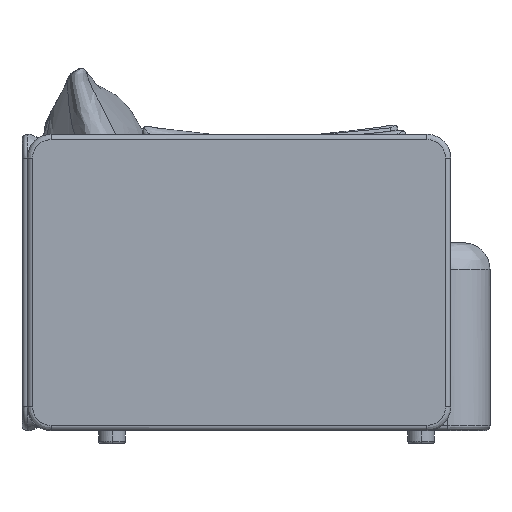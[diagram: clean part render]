
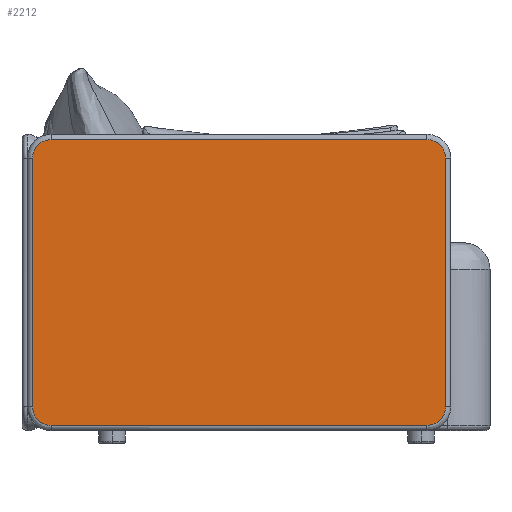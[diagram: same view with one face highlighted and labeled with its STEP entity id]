
A CAD part, left-side view. The second image highlights one B-rep face of the part: STEP entity #2212.
In plain terms, the highlighted planar face has unit normal (-1, 0, 0).
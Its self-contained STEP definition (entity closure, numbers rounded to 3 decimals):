
#926=(
BOUNDED_CURVE()
B_SPLINE_CURVE(2,(#48172,#48173,#48174),.UNSPECIFIED.,.F.,.F.)
B_SPLINE_CURVE_WITH_KNOTS((3,3),(0.,54.978),.UNSPECIFIED.)
CURVE()
GEOMETRIC_REPRESENTATION_ITEM()
RATIONAL_B_SPLINE_CURVE((1.,0.707,1.))
REPRESENTATION_ITEM('')
);
#928=(
BOUNDED_CURVE()
B_SPLINE_CURVE(2,(#48178,#48179,#48180),.UNSPECIFIED.,.F.,.F.)
B_SPLINE_CURVE_WITH_KNOTS((3,3),(0.,54.978),.UNSPECIFIED.)
CURVE()
GEOMETRIC_REPRESENTATION_ITEM()
RATIONAL_B_SPLINE_CURVE((1.,0.707,1.))
REPRESENTATION_ITEM('')
);
#932=(
BOUNDED_CURVE()
B_SPLINE_CURVE(2,(#48194,#48195,#48196),.UNSPECIFIED.,.F.,.F.)
B_SPLINE_CURVE_WITH_KNOTS((3,3),(0.,54.978),.UNSPECIFIED.)
CURVE()
GEOMETRIC_REPRESENTATION_ITEM()
RATIONAL_B_SPLINE_CURVE((1.,0.707,1.))
REPRESENTATION_ITEM('')
);
#934=(
BOUNDED_CURVE()
B_SPLINE_CURVE(2,(#48200,#48201,#48202),.UNSPECIFIED.,.F.,.F.)
B_SPLINE_CURVE_WITH_KNOTS((3,3),(0.,54.978),.UNSPECIFIED.)
CURVE()
GEOMETRIC_REPRESENTATION_ITEM()
RATIONAL_B_SPLINE_CURVE((1.,0.707,1.))
REPRESENTATION_ITEM('')
);
#1410=PLANE('',#10068);
#2212=ADVANCED_FACE('',(#2792),#1410,.T.);
#2792=FACE_OUTER_BOUND('',#3404,.T.);
#3404=EDGE_LOOP('',(#6389,#6390,#6391,#6392,#6393,#6394,#6395,#6396));
#6389=ORIENTED_EDGE('',*,*,#7881,.T.);
#6390=ORIENTED_EDGE('',*,*,#7878,.T.);
#6391=ORIENTED_EDGE('',*,*,#7883,.T.);
#6392=ORIENTED_EDGE('',*,*,#7887,.T.);
#6393=ORIENTED_EDGE('',*,*,#7891,.T.);
#6394=ORIENTED_EDGE('',*,*,#7892,.T.);
#6395=ORIENTED_EDGE('',*,*,#7889,.T.);
#6396=ORIENTED_EDGE('',*,*,#7885,.T.);
#7878=EDGE_CURVE('',#9462,#9461,#8493,.T.);
#7881=EDGE_CURVE('',#9463,#9462,#926,.T.);
#7883=EDGE_CURVE('',#9461,#9464,#928,.T.);
#7885=EDGE_CURVE('',#9465,#9463,#8494,.T.);
#7887=EDGE_CURVE('',#9464,#9466,#8495,.T.);
#7889=EDGE_CURVE('',#9467,#9465,#932,.T.);
#7891=EDGE_CURVE('',#9466,#9468,#934,.T.);
#7892=EDGE_CURVE('',#9468,#9467,#8496,.T.);
#8493=B_SPLINE_CURVE_WITH_KNOTS('',1,(#48164,#48165),.UNSPECIFIED.,.F.,
 .F.,(2,2),(0.,710.),.UNSPECIFIED.);
#8494=B_SPLINE_CURVE_WITH_KNOTS('',1,(#48184,#48185),.UNSPECIFIED.,.F.,
 .F.,(2,2),(0.,470.),.UNSPECIFIED.);
#8495=B_SPLINE_CURVE_WITH_KNOTS('',1,(#48189,#48190),.UNSPECIFIED.,.F.,
 .F.,(2,2),(0.,470.),.UNSPECIFIED.);
#8496=B_SPLINE_CURVE_WITH_KNOTS('',1,(#48203,#48204),.UNSPECIFIED.,.F.,
 .F.,(2,2),(0.,710.),.UNSPECIFIED.);
#9461=VERTEX_POINT('',#48089);
#9462=VERTEX_POINT('',#48090);
#9463=VERTEX_POINT('',#48091);
#9464=VERTEX_POINT('',#48092);
#9465=VERTEX_POINT('',#48093);
#9466=VERTEX_POINT('',#48094);
#9467=VERTEX_POINT('',#48095);
#9468=VERTEX_POINT('',#48096);
#10068=AXIS2_PLACEMENT_3D('',#48072,#10547,$);
#10547=DIRECTION('',(-1.,0.,0.));
#48072=CARTESIAN_POINT('',(-1177.68,422.,-261.514));
#48089=CARTESIAN_POINT('',(-1177.68,-323.,-261.514));
#48090=CARTESIAN_POINT('',(-1177.68,387.,-261.514));
#48091=CARTESIAN_POINT('',(-1177.68,422.,-226.514));
#48092=CARTESIAN_POINT('',(-1177.68,-358.,-226.514));
#48093=CARTESIAN_POINT('',(-1177.68,422.,243.486));
#48094=CARTESIAN_POINT('',(-1177.68,-358.,243.486));
#48095=CARTESIAN_POINT('',(-1177.68,387.,278.486));
#48096=CARTESIAN_POINT('',(-1177.68,-323.,278.486));
#48164=CARTESIAN_POINT('',(-1177.68,387.,-261.514));
#48165=CARTESIAN_POINT('',(-1177.68,-323.,-261.514));
#48172=CARTESIAN_POINT('',(-1177.68,422.,-226.514));
#48173=CARTESIAN_POINT('',(-1177.68,422.,-261.514));
#48174=CARTESIAN_POINT('',(-1177.68,387.,-261.514));
#48178=CARTESIAN_POINT('',(-1177.68,-323.,-261.514));
#48179=CARTESIAN_POINT('',(-1177.68,-358.,-261.514));
#48180=CARTESIAN_POINT('',(-1177.68,-358.,-226.514));
#48184=CARTESIAN_POINT('',(-1177.68,422.,243.486));
#48185=CARTESIAN_POINT('',(-1177.68,422.,-226.514));
#48189=CARTESIAN_POINT('',(-1177.68,-358.,-226.514));
#48190=CARTESIAN_POINT('',(-1177.68,-358.,243.486));
#48194=CARTESIAN_POINT('',(-1177.68,387.,278.486));
#48195=CARTESIAN_POINT('',(-1177.68,422.,278.486));
#48196=CARTESIAN_POINT('',(-1177.68,422.,243.486));
#48200=CARTESIAN_POINT('',(-1177.68,-358.,243.486));
#48201=CARTESIAN_POINT('',(-1177.68,-358.,278.486));
#48202=CARTESIAN_POINT('',(-1177.68,-323.,278.486));
#48203=CARTESIAN_POINT('',(-1177.68,-323.,278.486));
#48204=CARTESIAN_POINT('',(-1177.68,387.,278.486));
